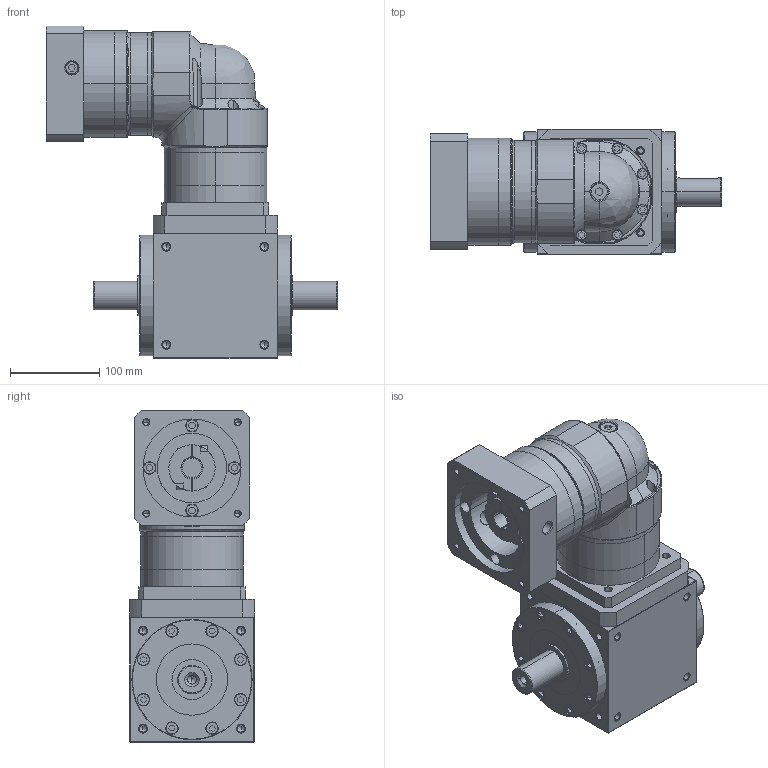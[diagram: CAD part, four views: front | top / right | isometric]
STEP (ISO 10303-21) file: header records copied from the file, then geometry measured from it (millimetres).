
FILE_DESCRIPTION (( 'STEP AP203' ), '1' );
FILE_NAME ('AT140-FL-L3-22-110-145M8饜蛌褒訇喘.STEP', '2026-03-04T07:56:49', ( 'Windows User' ), ( 'P R C' ), 'SwSTEP 2.0', 'SolidWorks 2016', '' );
FILE_SCHEMA (( 'CONFIG_CONTROL_DESIGN' ));
Length unit declared in the file: millimetre
Products named in the file (11): PAMG120-徹僅楊擘; PAMG120-输入法兰-A-FT-58-110-M8-145; PAMG.120-单级齿圈; 输入轴套-24-22; AT140-蛌倰怀堤楊擘-HVB120; PAMG120-L2-(A)-S2-P1-(22-58-110-M8-145); AT140-转角箱体-双轴输出; AT140-FL-L3-22-110-145M8饜蛌褒訇喘; PAMG120-怀堤傷-32粣; PAMG120-蛌褒眊极-蜊艦撿; PAMG120-单级齿圈
Assembly tree (10 placements, depth 3):
  AT140-FL-L3-22-110-145M8饜蛌褒訇喘
    AT140-蛌倰怀堤楊擘-HVB120
    AT140-转角箱体-双轴输出
    PAMG120-L2-(A)-S2-P1-(22-58-110-M8-145)
      PAMG120-怀堤傷-32粣
      PAMG120-蛌褒眊极-蜊艦撿
      PAMG120-单级齿圈
      PAMG120-徹僅楊擘
      PAMG120-输入法兰-A-FT-58-110-M8-145
      PAMG.120-单级齿圈
      输入轴套-24-22
Bounding box: 326.5 x 140 x 372.5 mm (x, y, z)
Volume: 5038384.5 mm3; surface area: 667169 mm2
Topology: 9 solids, 21 shells, 2084 faces, 5187 edges, 3247 vertices
Faces by surface type: plane 1001, cylinder 564, cone 340, bspline 179
Entity records: 71162 total; most frequent: CARTESIAN_POINT 21806, ORIENTED_EDGE 10098, DIRECTION 9544, EDGE_CURVE 5049, VERTEX_POINT 3247, VECTOR 3212, LINE 3212, AXIS2_PLACEMENT_3D 3166
